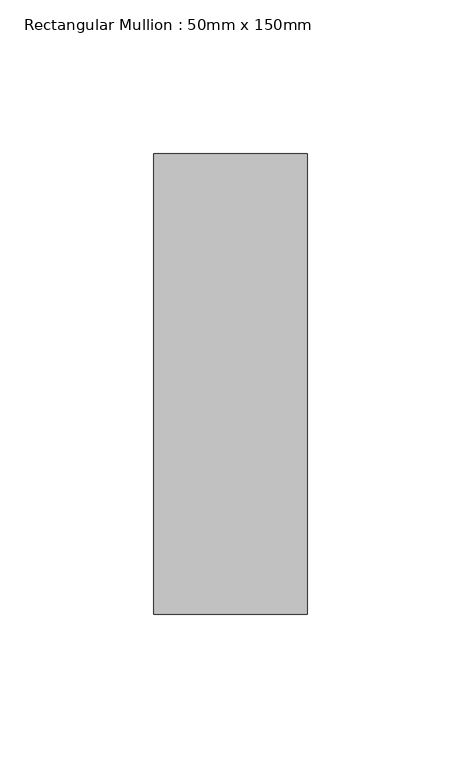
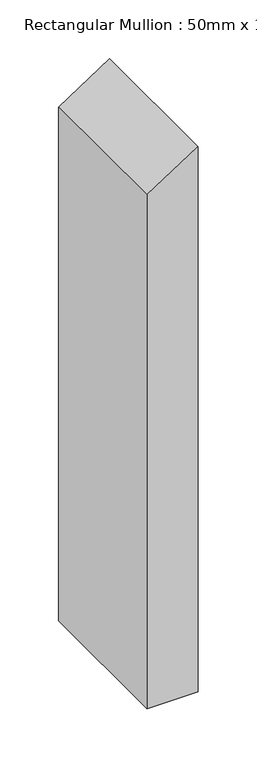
"""IFC4 building model written with IfcOpenShell, lengths in millimetres: member geometry, Rectangular Mullion : 50mm x 150mm."""

from ifc_helpers import new_model, si_unit, frame, origin, place, context, project, spatial, polyline, outline, extrude, source, transform, mapped, element, save


def rectangular_mullion_50mm_x_150mm_ce2d75c2(model_context):
    return source(origin(), model_context, "Body", "SweptSolid", [
        extrude(outline(polyline([(0.0, 0.0), (-32.5536398, -50.0), (-565.6123007, -50.0), (-565.6123007, 0.0), (0.0, 0.0)])), frame((0.0, -75.0, 0.0), z_axis=(0.0, 1.0, 0.0), x_axis=(0.0, 0.0, 1.0)), (0.0, 0.0, 1.0), 150.0),
    ])


if __name__ == "__main__":
    model = new_model("IFC4")
    model_context = context("Model", 3, world=origin())
    ifc_project = project(units=[si_unit("LENGTHUNIT", "METRE", prefix="MILLI")], contexts=[model_context])
    site = spatial("IfcSite", under=ifc_project)
    building = spatial("IfcBuilding", under=site)
    placement = place(None, origin())
    rectangular_mullion_50mm_x_150mm_shape = rectangular_mullion_50mm_x_150mm_ce2d75c2(model_context)
    element("IfcMember", 1, ObjectType="Rectangular Mullion : 50mm x 150mm", at=placement, inside=building, context=model_context, shape_type="MappedRepresentation", body=[
        mapped(rectangular_mullion_50mm_x_150mm_shape, transform((0.0, 0.0, 0.0), x_axis=(1.0, 0.0, 0.0), y_axis=(0.0, 1.0, 0.0), z_axis=(0.0, 0.0, 1.0))),
    ])
    save(model, "model.ifc")
